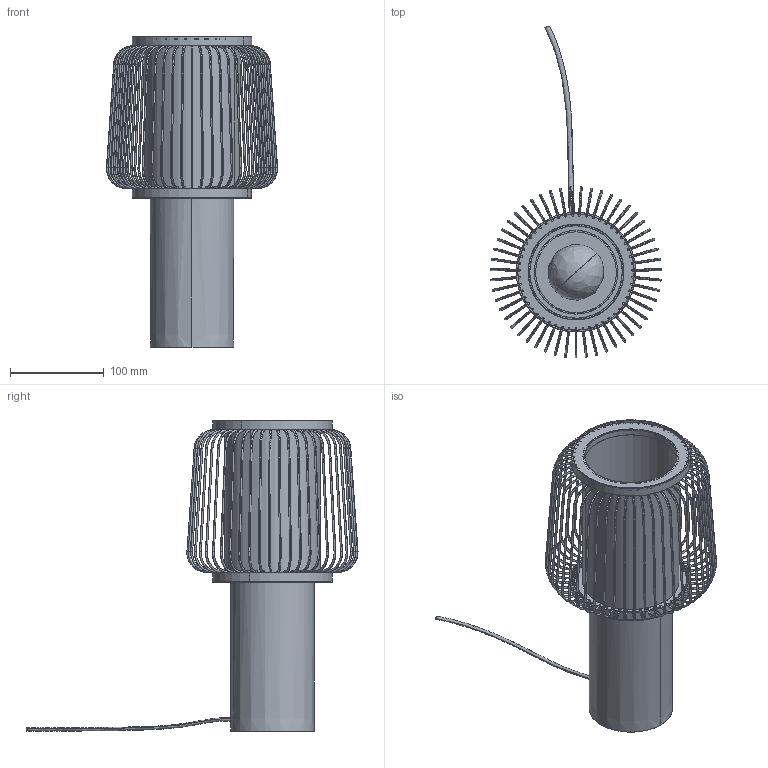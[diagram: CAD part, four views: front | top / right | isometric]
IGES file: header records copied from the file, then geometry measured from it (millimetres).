
Start section: SolidWorks IGES file using analytic representation for surfaces
Global section: file name: C:\Users\anna.bielnik\Desktop\NOME-biurkowa\rtrt.IGS; native system: SolidWorks 2025; preprocessor: SolidWorks 2025; author: anna.bielnik; date: 260615.125739; units: millimetre
Bounding box: 182.1 x 353.22 x 330.51 mm (x, y, z)
Surface area: 355568.5 mm2 (no closed solid volume)
Topology: 0 solids, 0 shells, 1158 faces, 11147 edges, 11145 vertices
Faces by surface type: revolution 594, bspline 564
